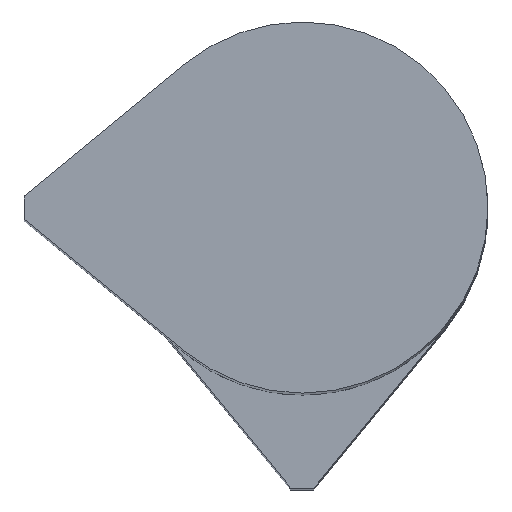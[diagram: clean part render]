
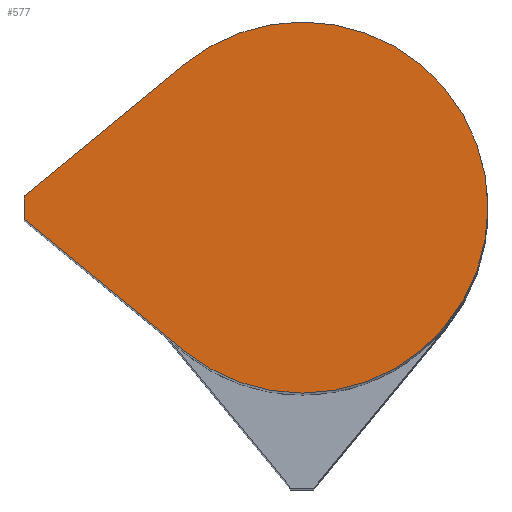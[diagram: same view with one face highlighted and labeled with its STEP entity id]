
A CAD part, top view. The second image highlights one B-rep face of the part: STEP entity #577.
In plain terms, the highlighted planar face has unit normal (0, 0, 1) as drawn and (0, 0, -1) by its records, which use the part's own axes.
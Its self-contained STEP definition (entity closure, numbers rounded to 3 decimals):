
#64 = EDGE_CURVE ( 'NONE', #587, #764, #1647, .T. ) ;
#76 = EDGE_CURVE ( 'NONE', #1610, #1391, #1612, .T. ) ;
#79 = ORIENTED_EDGE ( 'NONE', *, *, #418, .F. ) ;
#100 = DIRECTION ( 'NONE',  ( 0., 0., 1. ) ) ;
#140 = VERTEX_POINT ( 'NONE', #820 ) ;
#329 = EDGE_CURVE ( 'NONE', #764, #1610, #1525, .T. ) ;
#384 = ORIENTED_EDGE ( 'NONE', *, *, #64, .F. ) ;
#408 = AXIS2_PLACEMENT_3D ( 'NONE', #664, #100, #949 ) ;
#418 = EDGE_CURVE ( 'NONE', #934, #140, #836, .T. ) ;
#481 = CARTESIAN_POINT ( 'NONE',  ( 6.184, -5.076, 0. ) ) ;
#501 = CARTESIAN_POINT ( 'NONE',  ( -0.5, -12., 0. ) ) ;
#522 = AXIS2_PLACEMENT_3D ( 'NONE', #1457, #1571, #1324 ) ;
#559 = EDGE_CURVE ( 'NONE', #1391, #934, #951, .T. ) ;
#577 = ADVANCED_FACE ( 'NONE', ( #784 ), #1558, .F. ) ;
#587 = VERTEX_POINT ( 'NONE', #481 ) ;
#664 = CARTESIAN_POINT ( 'NONE',  ( 0., 0., 0. ) ) ;
#684 = DIRECTION ( 'NONE',  ( 1., 0., 0. ) ) ;
#724 = VECTOR ( 'NONE', #1419, 1000. ) ;
#725 = CARTESIAN_POINT ( 'NONE',  ( 0.5, -12., 0. ) ) ;
#738 = VECTOR ( 'NONE', #1005, 1000. ) ;
#764 = VERTEX_POINT ( 'NONE', #1556 ) ;
#769 = CARTESIAN_POINT ( 'NONE',  ( 0., 0., 0. ) ) ;
#780 = CARTESIAN_POINT ( 'NONE',  ( 6.184, -5.076, 0. ) ) ;
#784 = FACE_OUTER_BOUND ( 'NONE', #1503, .T. ) ;
#820 = CARTESIAN_POINT ( 'NONE',  ( 0.5, -12., 0. ) ) ;
#836 = LINE ( 'NONE', #725, #738 ) ;
#934 = VERTEX_POINT ( 'NONE', #501 ) ;
#943 = DIRECTION ( 'NONE',  ( 0.634, 0.773, 0. ) ) ;
#949 = DIRECTION ( 'NONE',  ( 1., 0., 0. ) ) ;
#951 = LINE ( 'NONE', #1408, #724 ) ;
#968 = DIRECTION ( 'NONE',  ( 0., 0., 1. ) ) ;
#972 = CARTESIAN_POINT ( 'NONE',  ( -6.184, -5.076, 0. ) ) ;
#995 = DIRECTION ( 'NONE',  ( 1., 0., 0. ) ) ;
#1005 = DIRECTION ( 'NONE',  ( 1., 0., 0. ) ) ;
#1012 = ORIENTED_EDGE ( 'NONE', *, *, #329, .F. ) ;
#1023 = VECTOR ( 'NONE', #943, 1000. ) ;
#1133 = ORIENTED_EDGE ( 'NONE', *, *, #76, .F. ) ;
#1148 = ORIENTED_EDGE ( 'NONE', *, *, #559, .F. ) ;
#1186 = CARTESIAN_POINT ( 'NONE',  ( -8., 0., 0. ) ) ;
#1324 = DIRECTION ( 'NONE',  ( 1., 0., 0. ) ) ;
#1328 = CARTESIAN_POINT ( 'NONE',  ( 0., 0., 0. ) ) ;
#1369 = AXIS2_PLACEMENT_3D ( 'NONE', #769, #1370, #684 ) ;
#1370 = DIRECTION ( 'NONE',  ( 0., 0., 1. ) ) ;
#1391 = VERTEX_POINT ( 'NONE', #972 ) ;
#1398 = LINE ( 'NONE', #780, #1023 ) ;
#1408 = CARTESIAN_POINT ( 'NONE',  ( -0.5, -12., 0. ) ) ;
#1419 = DIRECTION ( 'NONE',  ( 0.634, -0.773, 0. ) ) ;
#1452 = ORIENTED_EDGE ( 'NONE', *, *, #1583, .F. ) ;
#1455 = AXIS2_PLACEMENT_3D ( 'NONE', #1328, #968, #995 ) ;
#1457 = CARTESIAN_POINT ( 'NONE',  ( 0., 0., 0. ) ) ;
#1503 = EDGE_LOOP ( 'NONE', ( #384, #1452, #79, #1148, #1133, #1012 ) ) ;
#1525 = CIRCLE ( 'NONE', #408, 8. ) ;
#1556 = CARTESIAN_POINT ( 'NONE',  ( 8., 0., 0. ) ) ;
#1558 = PLANE ( 'NONE',  #522 ) ;
#1571 = DIRECTION ( 'NONE',  ( 0., 0., 1. ) ) ;
#1583 = EDGE_CURVE ( 'NONE', #140, #587, #1398, .T. ) ;
#1610 = VERTEX_POINT ( 'NONE', #1186 ) ;
#1612 = CIRCLE ( 'NONE', #1455, 8. ) ;
#1647 = CIRCLE ( 'NONE', #1369, 8. ) ;
